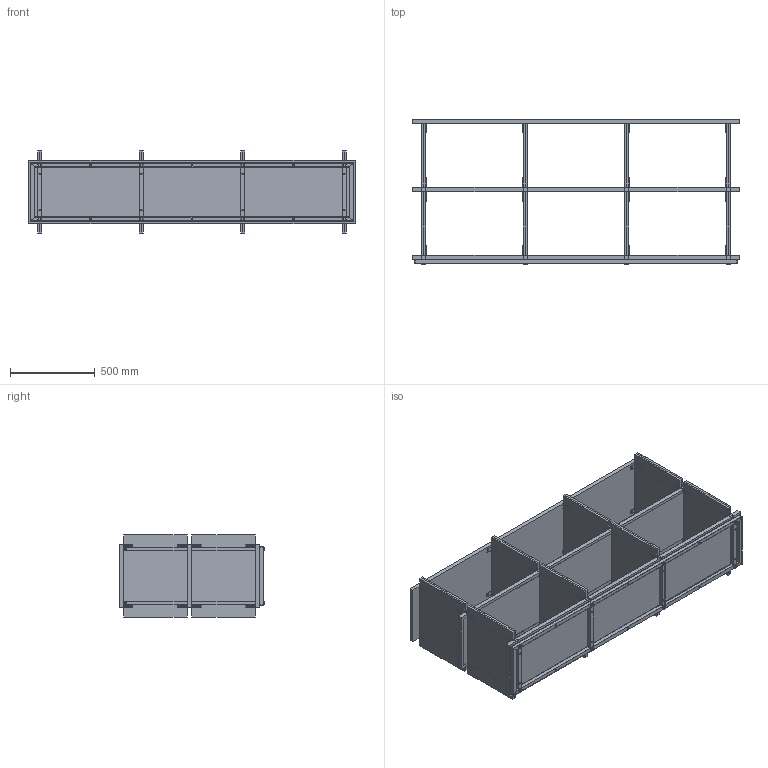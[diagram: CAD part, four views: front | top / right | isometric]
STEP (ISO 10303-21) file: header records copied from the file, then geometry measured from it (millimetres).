
FILE_DESCRIPTION (( 'STEP AP214' ), '1' );
FILE_NAME ('LIBRERIA L.3H.2.STEP', '2024-08-02T08:57:55', ( '' ), ( '' ), 'SwSTEP 2.0', 'SolidWorks 2022', '' );
FILE_SCHEMA (( 'AUTOMOTIVE_DESIGN' ));
Length unit declared in the file: millimetre
Products named in the file (17): PIASTRINA H.25; RIPIANO CENTRALE MARMO SP.25_TOP MARMO L.1935; SPINA DIAM.7.9X26; VITE TCCE M10X20; BASE L.1935; BASE-RIPIANO L.735-L.1935_BASE-RIPIANO L.1935; LASTRA PER SPALLA; PANNELLO SP.12 PER SPALLA; SPALLA SP.25; TOP LEGNO; UT181 - Boccola Marmo_per spessore 25; PIASTRINA H.55; UT20-FE-02 PIEDINO CON BUSSOLA M8 PER REGOLAZIONE A TERRA; TELAIO H.1-H.2-H.3_H2; LIBRERIA L.3H.2; RIPIANO CENTRALE MARMO SP.25; PIASTRINA PER TOP
Assembly tree (104 placements, depth 3):
  LIBRERIA L.3H.2
    TELAIO H.1-H.2-H.3_H2
    BASE L.1935
      BASE-RIPIANO L.735-L.1935_BASE-RIPIANO L.1935
      PIASTRINA H.25  x8
    SPINA DIAM.7.9X26  x16
    SPALLA SP.25  x11
      PANNELLO SP.12 PER SPALLA
      LASTRA PER SPALLA
      PIASTRINA H.55
    UT181 - Boccola Marmo_per spessore 25  x19
    UT20-FE-02 PIEDINO CON BUSSOLA M8 PER REGOLAZIONE A TERRA  x8
    RIPIANO CENTRALE MARMO SP.25
      RIPIANO CENTRALE MARMO SP.25_TOP MARMO L.1935
      PIASTRINA H.25  x8
    PIASTRINA PER TOP  x8
    TOP LEGNO
    VITE TCCE M10X20  x8
Bounding box: 1935 x 858 x 485 mm (x, y, z)
Volume: 104403673.8 mm3; surface area: 24446810.4 mm2
Topology: 244 solids, 244 shells, 7112 faces, 17562 edges, 11090 vertices
Faces by surface type: plane 3932, cylinder 2378, cone 546, sphere 208, torus 48
Entity records: 35546 total; most frequent: DIRECTION 5917, CARTESIAN_POINT 5413, ORIENTED_EDGE 5038, EDGE_CURVE 2519, AXIS2_PLACEMENT_3D 2240, VERTEX_POINT 1612, LINE 1437, VECTOR 1437
